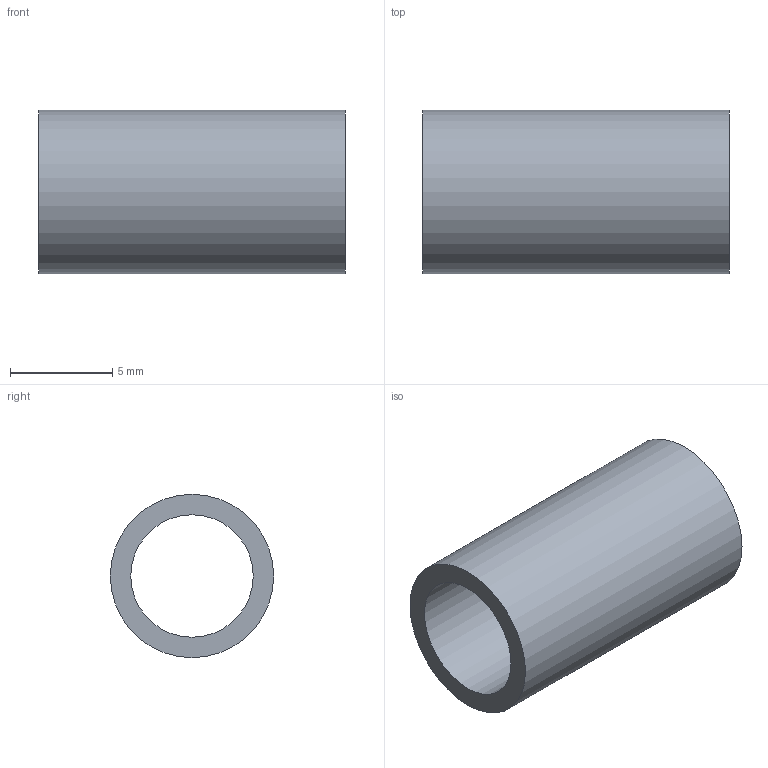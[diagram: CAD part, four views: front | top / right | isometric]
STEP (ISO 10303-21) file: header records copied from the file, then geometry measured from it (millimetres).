
FILE_DESCRIPTION(/* description */ (''),/* implementation_level */ '2;1');
FILE_NAME(/* name */ '010_SPACER.stp',/* time_stamp */ '2019-07-19T13:57:58+02:00',/* author */ (''),/* organization */ (''),/* preprocessor_version */ 'ST-DEVELOPER v16.7',/* originating_system */ 'SIEMENS PLM Software NX 12.0',/* authorisation */ '');
FILE_SCHEMA (('AUTOMOTIVE_DESIGN { 1 0 10303 214 3 1 1 1 }'));
Length unit declared in the file: millimetre
Products named in the file (1): bmas1184F1DDvyvo
Bounding box: 15 x 8 x 8 mm (x, y, z)
Volume: 329.9 mm3; surface area: 703.7 mm2
Topology: 1 solids, 1 shells, 4 faces, 6 edges, 4 vertices
Faces by surface type: cylinder 2, plane 2
Full cylindrical faces by diameter (mm): 6 x1, 8 x1
Entity records: 120 total; most frequent: DIRECTION 18, CARTESIAN_POINT 13, AXIS2_PLACEMENT_3D 9, FACE_BOUND 8, EDGE_LOOP 8, ORIENTED_EDGE 8, ADVANCED_FACE 4, VERTEX_POINT 4
